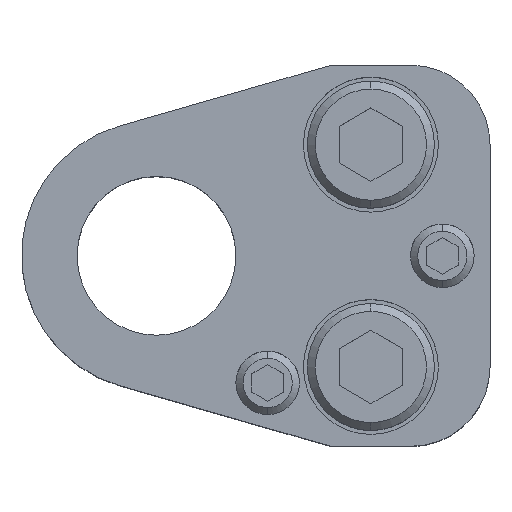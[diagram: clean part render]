
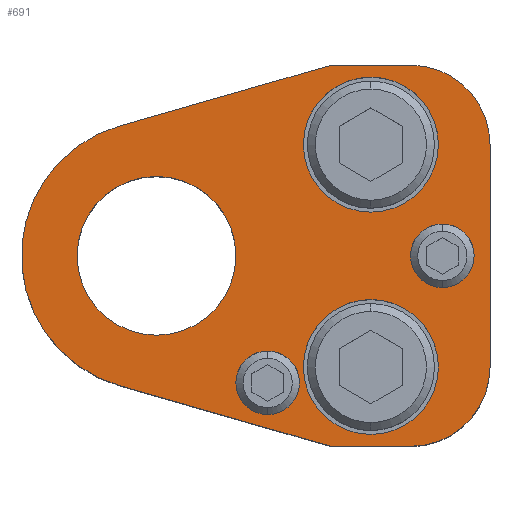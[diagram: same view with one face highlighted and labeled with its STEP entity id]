
A CAD part, top view. The second image highlights one B-rep face of the part: STEP entity #691.
In plain terms, the highlighted planar face has unit normal (0, 0, 1).
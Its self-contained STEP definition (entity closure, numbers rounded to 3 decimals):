
#359=LINE('',#3325,#523);
#363=LINE('',#3334,#527);
#367=LINE('',#3346,#531);
#370=LINE('',#3352,#534);
#374=LINE('',#3364,#538);
#523=VECTOR('',#2652,1.);
#527=VECTOR('',#2658,1.);
#531=VECTOR('',#2670,1.);
#534=VECTOR('',#2675,1.);
#538=VECTOR('',#2687,1.);
#691=ADVANCED_FACE('',(#847,#848,#849,#850,#851,#852),#797,.T.);
#797=PLANE('',#2335);
#847=FACE_BOUND('',#939,.T.);
#848=FACE_BOUND('',#940,.T.);
#849=FACE_BOUND('',#941,.T.);
#850=FACE_BOUND('',#942,.T.);
#851=FACE_BOUND('',#943,.T.);
#852=FACE_BOUND('',#944,.T.);
#939=EDGE_LOOP('',(#1281,#1282,#1283,#1284,#1285,#1286,#1287,#1288));
#940=EDGE_LOOP('',(#1289,#1290));
#941=EDGE_LOOP('',(#1291,#1292));
#942=EDGE_LOOP('',(#1293,#1294));
#943=EDGE_LOOP('',(#1295,#1296));
#944=EDGE_LOOP('',(#1297,#1298));
#1281=ORIENTED_EDGE('',*,*,#1878,.T.);
#1282=ORIENTED_EDGE('',*,*,#1882,.T.);
#1283=ORIENTED_EDGE('',*,*,#1885,.T.);
#1284=ORIENTED_EDGE('',*,*,#1888,.T.);
#1285=ORIENTED_EDGE('',*,*,#1891,.T.);
#1286=ORIENTED_EDGE('',*,*,#1894,.T.);
#1287=ORIENTED_EDGE('',*,*,#1897,.T.);
#1288=ORIENTED_EDGE('',*,*,#1900,.T.);
#1289=ORIENTED_EDGE('',*,*,#1935,.F.);
#1290=ORIENTED_EDGE('',*,*,#1936,.F.);
#1291=ORIENTED_EDGE('',*,*,#1937,.F.);
#1292=ORIENTED_EDGE('',*,*,#1938,.F.);
#1293=ORIENTED_EDGE('',*,*,#1933,.F.);
#1294=ORIENTED_EDGE('',*,*,#1929,.F.);
#1295=ORIENTED_EDGE('',*,*,#1927,.F.);
#1296=ORIENTED_EDGE('',*,*,#1923,.F.);
#1297=ORIENTED_EDGE('',*,*,#1939,.T.);
#1298=ORIENTED_EDGE('',*,*,#1940,.T.);
#1664=VERTEX_POINT('',#3324);
#1665=VERTEX_POINT('',#3326);
#1668=VERTEX_POINT('',#3333);
#1670=VERTEX_POINT('',#3339);
#1672=VERTEX_POINT('',#3345);
#1674=VERTEX_POINT('',#3351);
#1676=VERTEX_POINT('',#3357);
#1678=VERTEX_POINT('',#3363);
#1695=VERTEX_POINT('',#3416);
#1696=VERTEX_POINT('',#3417);
#1699=VERTEX_POINT('',#3429);
#1700=VERTEX_POINT('',#3430);
#1703=VERTEX_POINT('',#3442);
#1704=VERTEX_POINT('',#3443);
#1705=VERTEX_POINT('',#3446);
#1706=VERTEX_POINT('',#3447);
#1707=VERTEX_POINT('',#3450);
#1708=VERTEX_POINT('',#3451);
#1878=EDGE_CURVE('',#1665,#1664,#359,.T.);
#1882=EDGE_CURVE('',#1664,#1668,#363,.T.);
#1885=EDGE_CURVE('',#1668,#1670,#2117,.T.);
#1888=EDGE_CURVE('',#1670,#1672,#367,.T.);
#1891=EDGE_CURVE('',#1672,#1674,#370,.T.);
#1894=EDGE_CURVE('',#1674,#1676,#2119,.T.);
#1897=EDGE_CURVE('',#1676,#1678,#374,.T.);
#1900=EDGE_CURVE('',#1678,#1665,#2122,.T.);
#1923=EDGE_CURVE('',#1695,#1696,#2139,.T.);
#1927=EDGE_CURVE('',#1696,#1695,#2141,.T.);
#1929=EDGE_CURVE('',#1699,#1700,#2143,.T.);
#1933=EDGE_CURVE('',#1700,#1699,#2145,.T.);
#1935=EDGE_CURVE('',#1703,#1704,#2147,.T.);
#1936=EDGE_CURVE('',#1704,#1703,#2148,.T.);
#1937=EDGE_CURVE('',#1705,#1706,#2149,.T.);
#1938=EDGE_CURVE('',#1706,#1705,#2150,.T.);
#1939=EDGE_CURVE('',#1707,#1708,#2151,.T.);
#1940=EDGE_CURVE('',#1708,#1707,#2152,.T.);
#2117=CIRCLE('',#2280,17.);
#2119=CIRCLE('',#2285,10.);
#2122=CIRCLE('',#2290,10.);
#2139=CIRCLE('',#2315,8.5);
#2141=CIRCLE('',#2318,8.5);
#2143=CIRCLE('',#2322,8.5);
#2145=CIRCLE('',#2325,8.5);
#2147=CIRCLE('',#2329,4.);
#2148=CIRCLE('',#2330,4.);
#2149=CIRCLE('',#2331,4.);
#2150=CIRCLE('',#2332,4.);
#2151=CIRCLE('',#2333,10.);
#2152=CIRCLE('',#2334,10.);
#2280=AXIS2_PLACEMENT_3D('',#3340,#2663,#2664);
#2285=AXIS2_PLACEMENT_3D('',#3358,#2680,#2681);
#2290=AXIS2_PLACEMENT_3D('',#3368,#2693,#2694);
#2315=AXIS2_PLACEMENT_3D('',#3415,#2749,#2750);
#2318=AXIS2_PLACEMENT_3D('',#3424,#2757,#2758);
#2322=AXIS2_PLACEMENT_3D('',#3428,#2765,#2766);
#2325=AXIS2_PLACEMENT_3D('',#3437,#2773,#2774);
#2329=AXIS2_PLACEMENT_3D('',#3441,#2781,#2782);
#2330=AXIS2_PLACEMENT_3D('',#3444,#2783,#2784);
#2331=AXIS2_PLACEMENT_3D('',#3445,#2785,#2786);
#2332=AXIS2_PLACEMENT_3D('',#3448,#2787,#2788);
#2333=AXIS2_PLACEMENT_3D('',#3449,#2789,#2790);
#2334=AXIS2_PLACEMENT_3D('',#3452,#2791,#2792);
#2335=AXIS2_PLACEMENT_3D('',#3453,#2793,#2794);
#2652=DIRECTION('',(-1.,0.,0.));
#2658=DIRECTION('',(-0.961,-0.276,0.));
#2663=DIRECTION('',(0.,0.,1.));
#2664=DIRECTION('',(-0.106,0.994,0.));
#2670=DIRECTION('',(0.961,-0.276,0.));
#2675=DIRECTION('',(1.,0.,0.));
#2680=DIRECTION('',(0.,0.,1.));
#2681=DIRECTION('',(-0.707,0.707,0.));
#2687=DIRECTION('',(0.,1.,0.));
#2693=DIRECTION('',(0.,0.,1.));
#2694=DIRECTION('',(-0.707,-0.707,0.));
#2749=DIRECTION('',(0.,0.,1.));
#2750=DIRECTION('',(-1.,0.,0.));
#2757=DIRECTION('',(0.,0.,1.));
#2758=DIRECTION('',(1.,0.,0.));
#2765=DIRECTION('',(0.,0.,1.));
#2766=DIRECTION('',(-1.,0.,0.));
#2773=DIRECTION('',(0.,0.,1.));
#2774=DIRECTION('',(1.,0.,0.));
#2781=DIRECTION('',(0.,0.,1.));
#2782=DIRECTION('',(1.,0.,0.));
#2783=DIRECTION('',(0.,0.,1.));
#2784=DIRECTION('',(-1.,0.,0.));
#2785=DIRECTION('',(0.,0.,1.));
#2786=DIRECTION('',(1.,0.,0.));
#2787=DIRECTION('',(0.,0.,1.));
#2788=DIRECTION('',(-1.,0.,0.));
#2789=DIRECTION('',(0.,0.,-1.));
#2790=DIRECTION('',(-1.,0.,0.));
#2791=DIRECTION('',(0.,0.,-1.));
#2792=DIRECTION('',(1.,0.,0.));
#2793=DIRECTION('',(0.,0.,1.));
#2794=DIRECTION('',(1.,0.,0.));
#3324=CARTESIAN_POINT('',(22.,24.,30.));
#3325=CARTESIAN_POINT('',(32.,24.,30.));
#3326=CARTESIAN_POINT('',(32.,24.,30.));
#3333=CARTESIAN_POINT('',(-4.69,16.34,30.));
#3334=CARTESIAN_POINT('',(22.,24.,30.));
#3339=CARTESIAN_POINT('',(-4.69,-16.34,30.));
#3340=CARTESIAN_POINT('',(0.,0.,30.));
#3345=CARTESIAN_POINT('',(22.,-24.,30.));
#3346=CARTESIAN_POINT('',(22.,-24.,30.));
#3351=CARTESIAN_POINT('',(32.,-24.,30.));
#3352=CARTESIAN_POINT('',(32.,-24.,30.));
#3357=CARTESIAN_POINT('',(42.,-14.,30.));
#3358=CARTESIAN_POINT('',(32.,-14.,30.));
#3363=CARTESIAN_POINT('',(42.,14.,30.));
#3364=CARTESIAN_POINT('',(42.,14.,30.));
#3368=CARTESIAN_POINT('',(32.,14.,30.));
#3415=CARTESIAN_POINT('',(27.,-14.,30.));
#3416=CARTESIAN_POINT('',(27.,-22.5,30.));
#3417=CARTESIAN_POINT('',(27.,-5.5,30.));
#3424=CARTESIAN_POINT('',(27.,-14.,30.));
#3428=CARTESIAN_POINT('',(27.,14.,30.));
#3429=CARTESIAN_POINT('',(27.,5.5,30.));
#3430=CARTESIAN_POINT('',(27.,22.5,30.));
#3437=CARTESIAN_POINT('',(27.,14.,30.));
#3441=CARTESIAN_POINT('',(14.,-16.,30.));
#3442=CARTESIAN_POINT('',(14.,-12.,30.));
#3443=CARTESIAN_POINT('',(14.,-20.,30.));
#3444=CARTESIAN_POINT('',(14.,-16.,30.));
#3445=CARTESIAN_POINT('',(36.,0.,30.));
#3446=CARTESIAN_POINT('',(36.,4.,30.));
#3447=CARTESIAN_POINT('',(36.,-4.,30.));
#3448=CARTESIAN_POINT('',(36.,0.,30.));
#3449=CARTESIAN_POINT('',(0.,0.,30.));
#3450=CARTESIAN_POINT('',(0.,10.,30.));
#3451=CARTESIAN_POINT('',(0.,-10.,30.));
#3452=CARTESIAN_POINT('',(0.,0.,30.));
#3453=CARTESIAN_POINT('',(32.,24.,30.));
